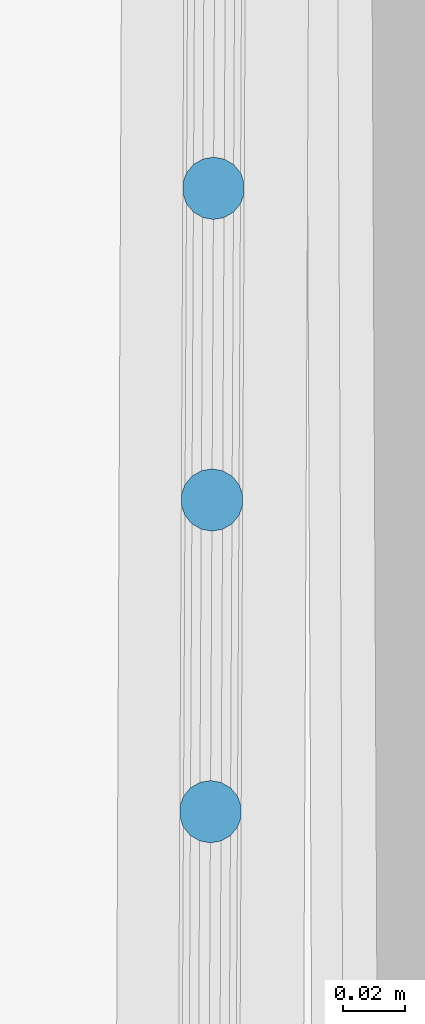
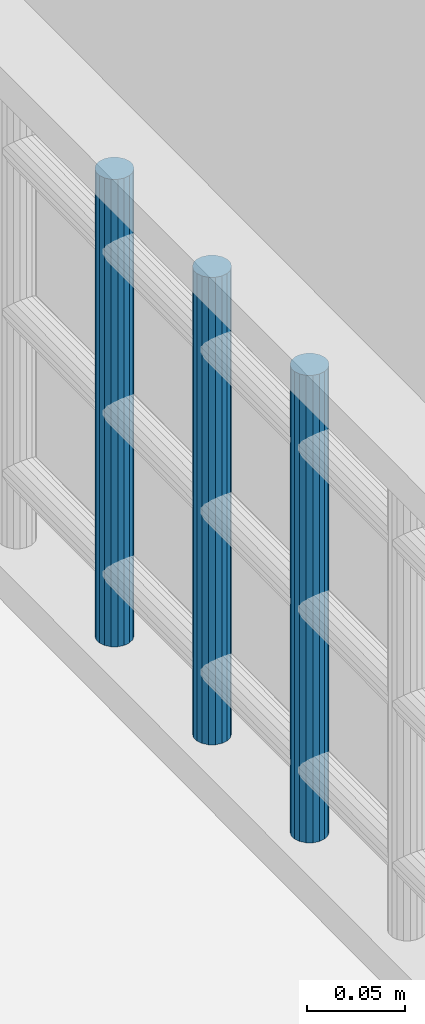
# One storey, part 38 of 72: 3 members, 1 element without a shape of its own.
"""IFC2X3 building model written with IfcOpenShell, lengths in centimetres."""

import ifcopenshell
import ifcopenshell.guid

model = None  # the IFC model being written
_history = None  # IfcOwnerHistory: only IFC2X3 demands one
_inside = {}  # id of a spatial element -> (the spatial element, [elements in it])
_under = {}  # id of a project, library or spatial element -> (it, [spatial elements below it])
_declared = {}  # id of a project -> (the project, [libraries it declares])
_typed = {}  # id of a type object -> (the type object, [elements of that type])
_made_of = {}  # id of a material, layer set ... -> (it, [elements and type objects made of it])


def new_model(schema):
    """Start an empty IFC model of exactly this schema.

    Asked for "IFC4X3", IfcOpenShell would pick the latest addendum, in which some entities
    have other attributes; the version numbers below select the first issue.
    IFC2X3 requires an IfcOwnerHistory on every rooted entity: one is made here for all.
    """
    global model, _history
    if schema == "IFC4X3":
        model = ifcopenshell.file(schema_version=(4, 3, 0, 0))
    else:
        model = ifcopenshell.file(schema=schema)
    _inside.clear()
    _under.clear()
    _declared.clear()
    _typed.clear()
    _made_of.clear()
    _history = None
    if model.schema == "IFC2X3":
        org = make("IfcOrganization", Name="unknown")
        user = make(
            "IfcPersonAndOrganization",
            ThePerson=make("IfcPerson", FamilyName="unknown"),
            TheOrganization=org,
        )
        app = make(
            "IfcApplication",
            ApplicationDeveloper=org,
            Version="unknown",
            ApplicationFullName="unknown",
            ApplicationIdentifier="unknown",
        )
        _history = make(
            "IfcOwnerHistory",
            OwningUser=user,
            OwningApplication=app,
            ChangeAction="ADDED",
            CreationDate=0,
        )
    return model


def make(cls, **values):
    """One entity of the class cls with the attributes given. An attribute that is None is left unset."""
    return model.create_entity(
        cls, **{name: value for name, value in values.items() if value is not None}
    )


def entity(cls, *values):
    """Any entity or typed value of the class cls, its attributes in the order of the schema. None: left unset."""
    e = model.create_entity(cls)
    for i, value in enumerate(values):
        if value is not None:
            e[i] = value
    return e


def rooted(cls, **values):
    """An entity with a GlobalId (a new one), such as an element, a storey or a relation."""
    return make(cls, GlobalId=ifcopenshell.guid.new(), OwnerHistory=_history, **values)


def si_unit(unit_type, name, prefix=None):
    """IfcSIUnit, for example si_unit("LENGTHUNIT", "METRE", prefix="MILLI")."""
    return make("IfcSIUnit", UnitType=unit_type, Prefix=prefix, Name=name)


def converted_unit(unit_type, name, factor, base, dimensions=None, offset=None):
    """IfcConversionBasedUnit, such as the inch: factor (a typed value) times the base unit."""
    return make(
        "IfcConversionBasedUnit"
        if offset is None
        else "IfcConversionBasedUnitWithOffset",
        ConversionOffset=offset,
        Dimensions=None
        if dimensions is None
        else entity("IfcDimensionalExponents", *dimensions),
        UnitType=unit_type,
        Name=name,
        ConversionFactor=make(
            "IfcMeasureWithUnit", ValueComponent=factor, UnitComponent=base
        ),
    )


def assignment(units):
    """IfcUnitAssignment: the units of a project."""
    return None if units is None else make("IfcUnitAssignment", Units=units)


def point(xyz):
    """IfcCartesianPoint."""
    return None if xyz is None else make("IfcCartesianPoint", Coordinates=xyz)


def direction(xyz):
    """IfcDirection."""
    return None if xyz is None else make("IfcDirection", DirectionRatios=xyz)


def frame(location, z_axis=None, x_axis=None):
    """IfcAxis2Placement3D, a coordinate frame: its origin and axes. An axis left out is left unset."""
    return make(
        "IfcAxis2Placement3D",
        Location=point(location),
        Axis=direction(z_axis),
        RefDirection=direction(x_axis),
    )


def origin():
    """The frame at (0, 0, 0) with its axes left unset."""
    return frame((0.0, 0.0, 0.0))


def origin_with_axes():
    """The frame at (0, 0, 0) with the z axis (0, 0, 1) and the x axis (1, 0, 0) written out."""
    return frame((0.0, 0.0, 0.0), z_axis=(0.0, 0.0, 1.0), x_axis=(1.0, 0.0, 0.0))


def place(relative_to, where):
    """IfcLocalPlacement: puts the frame where relative to a parent placement (None: the world)."""
    return make(
        "IfcLocalPlacement", PlacementRelTo=relative_to, RelativePlacement=where
    )


def context(
    kind, dimensions, precision=None, world=None, true_north=None, identifier=None
):
    """IfcGeometricRepresentationContext, for example the 3D "Model" context."""
    return make(
        "IfcGeometricRepresentationContext",
        ContextIdentifier=identifier,
        ContextType=kind,
        CoordinateSpaceDimension=dimensions,
        Precision=precision,
        WorldCoordinateSystem=world,
        TrueNorth=true_north,
    )


def subcontext(parent, identifier, kind, view, scale=None):
    """IfcGeometricRepresentationSubContext, for example "Body" below "Model"."""
    return make(
        "IfcGeometricRepresentationSubContext",
        ContextIdentifier=identifier,
        ContextType=kind,
        ParentContext=parent,
        TargetScale=scale,
        TargetView=view,
    )


def project(units=None, contexts=None):
    """IfcProject with its units and contexts."""
    return rooted(
        "IfcProject",
        Name="project",
        RepresentationContexts=contexts,
        UnitsInContext=assignment(units),
    )


def spatial(cls, under=None, at=None, **own):
    """A site, building, storey or space (cls), placed at a placement, below another one or the project."""
    s = rooted(cls, ObjectPlacement=at, **own)
    if under is not None:
        _under.setdefault(under.id(), (under, []))[1].append(s)
    return s


def faces_of(points, faces, orient=None, outer=None):
    """IfcFace entities. A face is a list of loops; a loop is a list of indices into points, from 0.

    orient and outer hold one flag for each loop. By default every Orientation is true, the
    first loop of a face is its IfcFaceOuterBound and the others are IfcFaceBound.
    """
    made = []
    for i, loops in enumerate(faces):
        bounds = []
        for j, loop in enumerate(loops):
            is_outer = j == 0 if outer is None else outer[i][j]
            bounds.append(
                make(
                    "IfcFaceOuterBound" if is_outer else "IfcFaceBound",
                    Bound=make("IfcPolyLoop", Polygon=[points[k] for k in loop]),
                    Orientation=True if orient is None else orient[i][j],
                )
            )
        made.append(make("IfcFace", Bounds=bounds))
    return made


def faceted_brep(points, faces, orient=None, outer=None, voids=None):
    """IfcFacetedBrep: a solid bounded by flat faces; with voids (closed shells), ...WithVoids."""
    shared = [point(p) for p in points]
    hull = make("IfcClosedShell", CfsFaces=faces_of(shared, faces, orient, outer))
    if voids is None:
        return make("IfcFacetedBrep", Outer=hull)
    return make(
        "IfcFacetedBrepWithVoids",
        Outer=hull,
        Voids=[
            make(cls, CfsFaces=faces_of(shared, fs, o, b)) for cls, fs, o, b in voids
        ],
    )


def shape(context_of_items, identifier, shape_type, items):
    """IfcShapeRepresentation: the items that make up one representation, for example the "Body"."""
    return make(
        "IfcShapeRepresentation",
        ContextOfItems=context_of_items,
        RepresentationIdentifier=identifier,
        RepresentationType=shape_type,
        Items=items,
    )


def material(Name=None, Category=None):
    """IfcMaterial."""
    return make("IfcMaterial", Name=Name, Category=Category)


def made_of(thing, what):
    """Note that an element or type object is made of a material, layer set ...; save() writes the relation."""
    if what is not None:
        _made_of.setdefault(what.id(), (what, []))[1].append(thing)
    return thing


def type_object(cls, material=None, **own):
    """A type object (cls), such as IfcWallType, which elements share."""
    return made_of(rooted(cls, **own), material)


def element(
    cls,
    number,
    at=None,
    inside=None,
    cuts=None,
    type_object=None,
    material=None,
    context=None,
    identifier="Body",
    shape_type=None,
    held_by="IfcProductDefinitionShape",
    body=None,
    shapes=None,
    **own,
):
    """One element of the class cls, such as IfcWall. Its Tag is "e" and its number.

    at: its placement. inside: the storey or other place that contains it. cuts: it is an
    opening in that element (IfcRelVoidsElement). A single representation is given by context,
    identifier, shape_type and body (its items); several are given by shapes. held_by: the class
    of the entity that holds the representations. save() writes the other relations.
    """
    e = rooted(cls, Tag="e%d" % number, ObjectPlacement=at, **own)
    if body is not None:
        shapes = [shape(context, identifier, shape_type, body)]
    if shapes is not None:
        e.Representation = make(held_by, Representations=shapes)
    if inside is not None:
        _inside.setdefault(inside.id(), (inside, []))[1].append(e)
    if cuts is not None:
        rooted(
            "IfcRelVoidsElement", RelatingBuildingElement=cuts, RelatedOpeningElement=e
        )
    if type_object is not None:
        _typed.setdefault(type_object.id(), (type_object, []))[1].append(e)
    return made_of(e, material)


def aggregate(whole, parts):
    """IfcRelAggregates: a whole, such as a stair, and the parts it consists of."""
    return rooted("IfcRelAggregates", RelatingObject=whole, RelatedObjects=parts)


def save(model, path):
    """Write the relations noted so far, then the file.

    IfcRelAggregates (storeys below a building ...), IfcRelContainedInSpatialStructure (elements
    in a storey), IfcRelDefinesByType, IfcRelAssociatesMaterial and IfcRelDeclares: one each for
    every whole, place, type object, material and project.
    """
    for whole, parts in _under.values():
        aggregate(whole, parts)
    for where, things in _inside.values():
        rooted(
            "IfcRelContainedInSpatialStructure",
            RelatedElements=things,
            RelatingStructure=where,
        )
    for kind, things in _typed.values():
        rooted("IfcRelDefinesByType", RelatedObjects=things, RelatingType=kind)
    for what, things in _made_of.values():
        rooted("IfcRelAssociatesMaterial", RelatedObjects=things, RelatingMaterial=what)
    for by, libraries in _declared.values():
        rooted("IfcRelDeclares", RelatingContext=by, RelatedDefinitions=libraries)
    model.write(path)


model = new_model("IFC2X3")

# Units and contexts
model_context = context("Model", 3, precision=0.0001, world=origin(), true_north=direction((0.225632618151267, 0.974212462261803, 0.0)))
body_context = subcontext(model_context, "Body", "Model", "MODEL_VIEW")
ifc_project = project(units=[si_unit("LENGTHUNIT", "METRE", prefix="CENTI"), si_unit("AREAUNIT", "SQUARE_METRE", prefix="CENTI"), si_unit("VOLUMEUNIT", "CUBIC_METRE", prefix="CENTI"), converted_unit("PLANEANGLEUNIT", "DEGREE", entity("IfcRatioMeasure", 0.0174532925), si_unit("PLANEANGLEUNIT", "RADIAN"), dimensions=[0, 0, 0, 0, 0, 0, 0])], contexts=[model_context])

# Site, building, storey
site_placement = place(None, origin_with_axes())
site = spatial("IfcSite", under=ifc_project, at=site_placement, Name="Default Site", CompositionType="ELEMENT")
building_placement = place(site_placement, origin_with_axes())
building = spatial("IfcBuilding", under=site, at=building_placement, Name="Default Building", CompositionType="ELEMENT")
storey_placement = place(building_placement, frame((0.0, 0.0, 853.910374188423), z_axis=(0.0, 0.0, 1.0), x_axis=(1.0, 0.0, 0.0)))
storey = spatial("IfcBuildingStorey", under=building, at=storey_placement, Name="Niveau 2", CompositionType="ELEMENT", Elevation=853.910374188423)

# Assembly, members
building_element_proxy_type = type_object("IfcBuildingElementProxyType", Name="Type Object", PredefinedType="NOTDEFINED")
assembly_placement = place(storey_placement, frame((1065.78157704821, 135.618268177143, 11.9999999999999), z_axis=(0.0, 0.0, 1.0), x_axis=(-0.00486371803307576, -0.999988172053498, 0.0)))
assembly = element("IfcElementAssembly", 1, at=assembly_placement, inside=storey, type_object=building_element_proxy_type, Name="Panneau 1702025", ObjectType="Precast panel", PredefinedType="USERDEFINED")
ifc_material = material(Name="Aluminium satiné")
member_1_placement = place(assembly_placement, frame((48.4396934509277, 0.342020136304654, 31.0000002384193), z_axis=(0.0, 0.0, 1.0), x_axis=(0.500002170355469, -0.866024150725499, 0.0)))
member_1 = element("IfcMember", 2, at=member_1_placement, material=ifc_material, Name="4294967125", context=body_context, shape_type="Brep", body=[
    faceted_brep([(2.22044604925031e-14, -1.77635683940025e-13, -1.77635683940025e-13), (-0.347296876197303, -2.33146835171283e-13, -1.77635683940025e-13), (-0.673649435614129, -0.118782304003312, -1.77635683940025e-13), (-0.939693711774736, -0.342018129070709, -1.77635683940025e-13), (-1.11334216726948, -0.642784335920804, -1.77635683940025e-13), (-1.17365112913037, -0.984805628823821, -1.77635683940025e-13), (-1.11334505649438, -1.32682669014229, -1.77635683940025e-13), (-0.939696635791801, -1.62759289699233, -1.77635683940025e-13), (-0.673653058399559, -1.85083187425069, -1.77635683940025e-13), (-0.347301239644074, -1.96961451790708, -1.77635683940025e-13), (-5.85356933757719e-06, -1.96961709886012, -1.77635683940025e-13), (0.326346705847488, -1.85083479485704, -1.77635683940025e-13), (0.592392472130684, -1.62759638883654, -1.77635683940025e-13), (0.766040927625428, -1.32683018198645, -1.77635683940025e-13), (0.826348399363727, -0.984811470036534, -1.77635683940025e-13), (0.766042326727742, -0.642790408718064, -1.77635683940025e-13), (0.592395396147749, -0.342021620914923, -1.77635683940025e-13), (0.326351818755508, -0.118782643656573, -1.77635683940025e-13), (0.326351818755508, -0.118782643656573, -29.0000002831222), (0.592395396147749, -0.342021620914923, -29.0000002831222), (0.766042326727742, -0.642790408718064, -29.0000002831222), (0.826348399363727, -0.984811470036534, -29.0000002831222), (0.766040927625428, -1.32683018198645, -29.0000002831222), (0.592392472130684, -1.62759638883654, -29.0000002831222), (0.326346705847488, -1.85083479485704, -29.0000002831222), (-5.85356933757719e-06, -1.96961709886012, -29.0000002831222), (-0.347301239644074, -1.96961451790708, -29.0000002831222), (-0.673653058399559, -1.85083187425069, -29.0000002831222), (-0.939696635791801, -1.62759289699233, -29.0000002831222), (-1.11334505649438, -1.32682669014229, -29.0000002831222), (-1.17365112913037, -0.984805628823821, -29.0000002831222), (-1.11334216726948, -0.642784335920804, -29.0000002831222), (-0.939693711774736, -0.342018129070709, -29.0000002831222), (-0.673649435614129, -0.118782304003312, -29.0000002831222), (-0.347296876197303, -2.33146835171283e-13, -29.0000002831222), (2.22044604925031e-14, -1.77635683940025e-13, -29.0000002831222), (0.592395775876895, -0.342021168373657, -1.77635683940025e-13), (0.592395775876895, -0.342021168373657, -29.0000002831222), (0.766043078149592, -0.642789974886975, -1.77635683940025e-13), (0.766043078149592, -0.642789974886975, -29.0000002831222), (0.826348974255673, -0.984811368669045, -1.77635683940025e-13), (0.826348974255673, -0.984811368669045, -29.0000002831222), (0.766040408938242, -1.32683009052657, -1.77635683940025e-13), (0.766040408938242, -1.32683009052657, -29.0000002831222), (0.592392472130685, -1.62759638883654, -1.77635683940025e-13), (0.592392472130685, -1.62759638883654, -29.0000002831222), (0.32634638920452, -1.85083441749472, -1.77635683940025e-13), (0.32634638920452, -1.85083441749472, -29.0000002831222), (-6.05322574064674e-06, -1.96961655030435, -1.77635683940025e-13), (-6.05322574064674e-06, -1.96961655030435, -29.0000002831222), (-0.347301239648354, -1.96961623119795, -1.77635683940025e-13), (-0.347301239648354, -1.96961623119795, -29.0000002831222), (-0.673652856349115, -1.85083131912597, -1.77635683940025e-13), (-0.673652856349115, -1.85083131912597, -29.0000002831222), (-0.93969701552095, -1.6275933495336, -1.77635683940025e-13), (-0.93969701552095, -1.6275933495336, -29.0000002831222), (-1.11334357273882, -1.32682583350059, -1.77635683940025e-13), (-1.11334357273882, -1.32682583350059, -29.0000002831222), (-1.17365170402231, -0.98480573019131, -1.77635683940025e-13), (-1.17365170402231, -0.98480573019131, -29.0000002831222), (-1.11334265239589, -0.642784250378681, -1.77635683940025e-13), (-1.11334265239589, -0.642784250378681, -29.0000002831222), (-0.67364977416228, -0.118781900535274, -1.77635683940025e-13), (-0.67364977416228, -0.118781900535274, -29.0000002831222), (-0.3472966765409, -5.48556008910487e-07, -1.77635683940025e-13), (-0.3472966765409, -5.48556008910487e-07, -29.0000002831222), (-2.14552063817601e-12, -8.67666129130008e-07, -1.77635683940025e-13), (-2.14552063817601e-12, -8.67666129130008e-07, -29.0000002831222), (0.326351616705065, -0.118783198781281, -1.77635683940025e-13), (0.326351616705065, -0.118783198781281, -29.0000002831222)], [[[0, 1, 2, 3, 4, 5, 6, 7, 8, 9, 10, 11, 12, 13, 14, 15, 16, 17]], [[18, 19, 20, 21, 22, 23, 24, 25, 26, 27, 28, 29, 30, 31, 32, 33, 34, 35]], [[17, 36, 37, 18]], [[16, 38, 39, 19]], [[15, 40, 41, 20]], [[14, 42, 43, 21]], [[13, 44, 45, 22]], [[12, 46, 47, 23]], [[11, 48, 49, 24]], [[10, 50, 51, 25]], [[9, 52, 53, 26]], [[8, 54, 55, 27]], [[7, 56, 57, 28]], [[6, 58, 59, 29]], [[5, 60, 61, 30]], [[4, 3, 32, 31]], [[3, 62, 63, 32]], [[2, 64, 65, 33]], [[1, 66, 67, 34]], [[0, 68, 69, 35]]]),
])
member_2_placement = place(assembly_placement, frame((58.439689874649, 0.342020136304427, 31.0000002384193), z_axis=(0.0, 0.0, 1.0), x_axis=(0.499995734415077, -0.866027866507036, 0.0)))
member_2 = element("IfcMember", 3, at=member_2_placement, material=ifc_material, Name="4294967124", context=body_context, shape_type="Brep", body=[
    faceted_brep([(1.77635683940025e-13, -1.55431223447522e-13, -1.55431223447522e-13), (-0.347295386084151, -9.99200722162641e-14, -1.55431223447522e-13), (-0.673647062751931, -0.118784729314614, -1.55431223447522e-13), (-0.939688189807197, -0.34201995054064, -1.55431223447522e-13), (-1.11333590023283, -0.642790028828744, -1.55431223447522e-13), (-1.17364232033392, -0.984811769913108, -1.55431223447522e-13), (-1.11333370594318, -1.32683238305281, -1.55431223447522e-13), (-0.939683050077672, -1.62759729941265, -1.55431223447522e-13), (-0.673637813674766, -1.85083429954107, -1.55431223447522e-13), (-0.34728511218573, -1.96961451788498, -1.55431223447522e-13), (1.02738985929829e-05, -1.96961451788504, -1.55431223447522e-13), (0.326361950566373, -1.85082978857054, -1.55431223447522e-13), (0.59240605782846, -1.62758940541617, -1.55431223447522e-13), (0.766053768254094, -1.32681932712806, -1.55431223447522e-13), (0.826357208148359, -0.984802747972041, -1.55431223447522e-13), (0.766048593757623, -0.64278213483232, -1.55431223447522e-13), (0.59239793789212, -0.34201721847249, -1.55431223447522e-13), (0.326352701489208, -0.118780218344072, -1.55431223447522e-13), (0.326352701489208, -0.118780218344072, -29.0000002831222), (0.59239793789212, -0.34201721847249, -29.0000002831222), (0.766048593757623, -0.64278213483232, -29.0000002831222), (0.826357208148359, -0.984802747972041, -29.0000002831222), (0.766053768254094, -1.32681932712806, -29.0000002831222), (0.59240605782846, -1.62758940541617, -29.0000002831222), (0.326361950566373, -1.85082978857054, -29.0000002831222), (1.02738985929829e-05, -1.96961451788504, -29.0000002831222), (-0.34728511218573, -1.96961451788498, -29.0000002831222), (-0.673637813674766, -1.85083429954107, -29.0000002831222), (-0.939683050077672, -1.62759729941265, -29.0000002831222), (-1.11333370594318, -1.32683238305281, -29.0000002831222), (-1.17364232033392, -0.984811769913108, -29.0000002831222), (-1.11333590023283, -0.642790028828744, -29.0000002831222), (-0.939688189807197, -0.34201995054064, -29.0000002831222), (-0.673647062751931, -0.118784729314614, -29.0000002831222), (-0.347295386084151, -9.99200722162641e-14, -29.0000002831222), (1.77635683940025e-13, -1.55431223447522e-13, -29.0000002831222), (0.592398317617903, -0.342016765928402, -1.55431223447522e-13), (0.592398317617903, -0.342016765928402, -29.0000002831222), (0.76604711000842, -0.642782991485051, -1.55431223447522e-13), (0.76604711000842, -0.642782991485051, -29.0000002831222), (0.826357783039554, -0.984802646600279, -1.55431223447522e-13), (0.826357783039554, -0.984802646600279, -29.0000002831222), (0.766052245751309, -1.32681905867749, -1.55431223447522e-13), (0.766052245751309, -1.32681905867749, -29.0000002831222), (0.326361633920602, -1.85082941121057, -1.55431223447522e-13), (0.326361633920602, -1.85082941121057, -29.0000002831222), (1.00742381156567e-05, -1.96961396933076, -1.55431223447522e-13), (1.00742381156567e-05, -1.96961396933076, -29.0000002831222), (-0.347285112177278, -1.96961623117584, -1.55431223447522e-13), (-0.347285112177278, -1.96961623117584, -29.0000002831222), (-0.673637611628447, -1.85083374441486, -1.55431223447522e-13), (-0.673637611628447, -1.85083374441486, -29.0000002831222), (-0.939683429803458, -1.62759775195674, -1.55431223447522e-13), (-0.939683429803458, -1.62759775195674, -29.0000002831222), (-1.11333222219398, -1.32683152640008, -1.55431223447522e-13), (-1.11333222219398, -1.32683152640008, -29.0000002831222), (-1.17364289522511, -0.984811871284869, -1.55431223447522e-13), (-1.17364289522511, -0.984811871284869, -29.0000002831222), (-1.11333638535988, -0.642789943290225, -1.55431223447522e-13), (-1.11333638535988, -0.642789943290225, -29.0000002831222), (-0.9396881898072, -0.342019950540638, -1.55431223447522e-13), (-0.9396881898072, -0.342019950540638, -29.0000002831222), (-0.673648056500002, -0.118783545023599, -1.55431223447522e-13), (-0.673648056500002, -0.118783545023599, -29.0000002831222), (-0.34729518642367, -5.48554395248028e-07, -1.55431223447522e-13), (-0.34729518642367, -5.48554395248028e-07, -29.0000002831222), (-8.27443590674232e-12, 1.71329070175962e-06, -1.55431223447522e-13), (-8.27443590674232e-12, 1.71329070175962e-06, -29.0000002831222), (0.326352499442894, -0.118780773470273, -1.55431223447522e-13), (0.326352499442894, -0.118780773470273, -29.0000002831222)], [[[0, 1, 2, 3, 4, 5, 6, 7, 8, 9, 10, 11, 12, 13, 14, 15, 16, 17]], [[18, 19, 20, 21, 22, 23, 24, 25, 26, 27, 28, 29, 30, 31, 32, 33, 34, 35]], [[17, 36, 37, 18]], [[16, 38, 39, 19]], [[15, 40, 41, 20]], [[14, 42, 43, 21]], [[13, 12, 23, 22]], [[12, 44, 45, 23]], [[11, 46, 47, 24]], [[10, 48, 49, 25]], [[9, 50, 51, 26]], [[8, 52, 53, 27]], [[7, 54, 55, 28]], [[6, 56, 57, 29]], [[5, 58, 59, 30]], [[4, 60, 61, 31]], [[3, 62, 63, 32]], [[2, 64, 65, 33]], [[1, 66, 67, 34]], [[0, 68, 69, 35]]]),
])
member_3_placement = place(assembly_placement, frame((68.4396922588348, 0.342020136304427, 31.0000002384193), z_axis=(0.0, 0.0, 1.0), x_axis=(0.499995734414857, -0.866027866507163, 0.0)))
member_3 = element("IfcMember", 4, at=member_3_placement, material=ifc_material, Name="4294967123", context=body_context, shape_type="Brep", body=[
    faceted_brep([(7.21644966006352e-14, 2.22044604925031e-14, -3.49720252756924e-13), (-0.347295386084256, 0.0, -3.49720252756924e-13), (-0.673647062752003, -0.118784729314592, -3.49720252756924e-13), (-0.939691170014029, -0.342025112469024, -3.49720252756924e-13), (-1.11333888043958, -0.642795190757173, -3.49720252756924e-13), (-1.17364232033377, -0.984811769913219, -3.49720252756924e-13), (-1.11333370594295, -1.32683238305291, -3.49720252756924e-13), (-0.939683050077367, -1.62759729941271, -3.49720252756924e-13), (-0.673637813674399, -1.85083429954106, -3.49720252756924e-13), (-0.347285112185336, -1.96961451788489, -3.49720252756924e-13), (1.02738989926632e-05, -1.96961451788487, -3.49720252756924e-13), (0.326361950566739, -1.85082978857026, -3.49720252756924e-13), (0.59240307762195, -1.62759456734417, -3.49720252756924e-13), (0.766050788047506, -1.32682448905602, -3.49720252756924e-13), (0.826357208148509, -0.984802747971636, -3.49720252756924e-13), (0.766048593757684, -0.642782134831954, -3.49720252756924e-13), (0.592397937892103, -0.342017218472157, -3.49720252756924e-13), (0.326352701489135, -0.118780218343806, -3.49720252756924e-13), (0.326352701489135, -0.118780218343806, -29.0000002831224), (0.592397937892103, -0.342017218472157, -29.0000002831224), (0.766048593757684, -0.642782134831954, -29.0000002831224), (0.826357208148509, -0.984802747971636, -29.0000002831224), (0.766050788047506, -1.32682448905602, -29.0000002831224), (0.59240307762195, -1.62759456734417, -29.0000002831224), (0.326361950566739, -1.85082978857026, -29.0000002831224), (1.02738989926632e-05, -1.96961451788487, -29.0000002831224), (-0.347285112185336, -1.96961451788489, -29.0000002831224), (-0.673637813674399, -1.85083429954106, -29.0000002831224), (-0.939683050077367, -1.62759729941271, -29.0000002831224), (-1.11333370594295, -1.32683238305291, -29.0000002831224), (-1.17364232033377, -0.984811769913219, -29.0000002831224), (-1.11333888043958, -0.642795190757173, -29.0000002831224), (-0.939691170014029, -0.342025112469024, -29.0000002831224), (-0.673647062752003, -0.118784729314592, -29.0000002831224), (-0.347295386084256, 0.0, -29.0000002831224), (7.21644966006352e-14, 2.22044604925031e-14, -29.0000002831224), (0.592398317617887, -0.342016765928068, -3.49720252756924e-13), (0.592398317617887, -0.342016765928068, -29.0000002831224), (0.766047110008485, -0.642782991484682, -3.49720252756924e-13), (0.766047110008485, -0.642782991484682, -29.0000002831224), (0.826357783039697, -0.984802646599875, -3.49720252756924e-13), (0.826357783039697, -0.984802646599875, -29.0000002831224), (0.766051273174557, -1.32682457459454, -3.49720252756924e-13), (0.766051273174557, -1.32682457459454, -29.0000002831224), (0.592403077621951, -1.62759456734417, -3.49720252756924e-13), (0.592403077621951, -1.62759456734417, -29.0000002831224), (0.326362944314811, -1.85083097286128, -3.49720252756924e-13), (0.326362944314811, -1.85083097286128, -29.0000002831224), (1.0074238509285e-05, -1.96961396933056, -3.49720252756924e-13), (1.0074238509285e-05, -1.96961396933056, -29.0000002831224), (-0.347285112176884, -1.96961623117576, -3.49720252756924e-13), (-0.347285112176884, -1.96961623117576, -29.0000002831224), (-0.673637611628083, -1.85083374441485, -3.49720252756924e-13), (-0.673637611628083, -1.85083374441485, -29.0000002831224), (-0.939683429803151, -1.6275977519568, -3.49720252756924e-13), (-0.939683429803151, -1.6275977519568, -29.0000002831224), (-1.11333222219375, -1.32683152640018, -3.49720252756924e-13), (-1.11333222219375, -1.32683152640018, -29.0000002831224), (-1.17364289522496, -0.98481187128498, -3.49720252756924e-13), (-1.17364289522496, -0.98481187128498, -29.0000002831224), (-1.11333735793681, -0.64279545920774, -3.49720252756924e-13), (-1.11333735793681, -0.64279545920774, -29.0000002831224), (-0.93969117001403, -0.342025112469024, -3.49720252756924e-13), (-0.93969117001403, -0.342025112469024, -29.0000002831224), (-0.673646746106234, -0.118785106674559, -3.49720252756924e-13), (-0.673646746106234, -0.118785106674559, -29.0000002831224), (-0.347295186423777, -5.48554291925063e-07, -3.49720252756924e-13), (-0.347295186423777, -5.48554291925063e-07, -29.0000002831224), (-8.37990757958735e-12, 1.7132908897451e-06, -3.49720252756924e-13), (-8.37990757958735e-12, 1.7132908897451e-06, -29.0000002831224), (0.326352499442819, -0.118780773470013, -3.49720252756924e-13), (0.326352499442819, -0.118780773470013, -29.0000002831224)], [[[0, 1, 2, 3, 4, 5, 6, 7, 8, 9, 10, 11, 12, 13, 14, 15, 16, 17]], [[18, 19, 20, 21, 22, 23, 24, 25, 26, 27, 28, 29, 30, 31, 32, 33, 34, 35]], [[17, 36, 37, 18]], [[16, 38, 39, 19]], [[15, 40, 41, 20]], [[14, 42, 43, 21]], [[13, 44, 45, 22]], [[12, 46, 47, 23]], [[11, 48, 49, 24]], [[10, 50, 51, 25]], [[9, 52, 53, 26]], [[8, 54, 55, 27]], [[7, 56, 57, 28]], [[6, 58, 59, 29]], [[5, 60, 61, 30]], [[4, 62, 63, 31]], [[3, 64, 65, 32]], [[2, 66, 67, 33]], [[1, 68, 69, 34]], [[0, 70, 71, 35]]]),
])
aggregate(assembly, [member_1, member_2, member_3])

save(model, "model.ifc")
